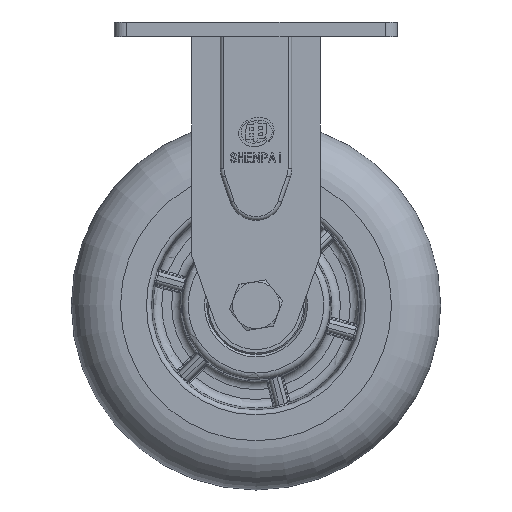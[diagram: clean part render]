
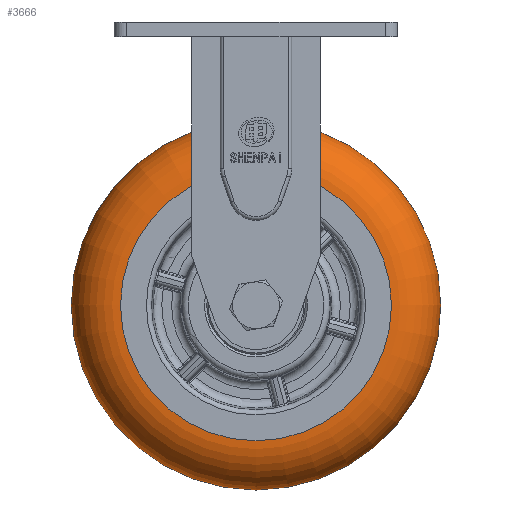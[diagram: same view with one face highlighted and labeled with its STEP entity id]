
A CAD part, front view. The second image highlights one B-rep face of the part: STEP entity #3666.
In plain terms, the highlighted toroidal (fillet/blend) face has major radius 55 mm and minor radius 20 mm.
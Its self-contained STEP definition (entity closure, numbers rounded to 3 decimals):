
#84=TOROIDAL_SURFACE('',#14901,55.,20.);
#3666=ADVANCED_FACE('',(#4441,#4442),#84,.T.);
#4441=FACE_BOUND('',#4961,.T.);
#4442=FACE_BOUND('',#4962,.T.);
#4961=EDGE_LOOP('',(#7165));
#4962=EDGE_LOOP('',(#7166));
#7165=ORIENTED_EDGE('',*,*,#12118,.F.);
#7166=ORIENTED_EDGE('',*,*,#12116,.F.);
#10426=VERTEX_POINT('',#38686);
#10428=VERTEX_POINT('',#38700);
#12116=EDGE_CURVE('',#10426,#10426,#13815,.T.);
#12118=EDGE_CURVE('',#10428,#10428,#13817,.T.);
#13815=CIRCLE('',#14886,55.);
#13817=CIRCLE('',#14898,75.);
#14886=AXIS2_PLACEMENT_3D('',#38685,#17079,#17080);
#14898=AXIS2_PLACEMENT_3D('',#38699,#17103,#17104);
#14901=AXIS2_PLACEMENT_3D('',#38704,#17109,#17110);
#17079=DIRECTION('',(0.,-1.,0.));
#17080=DIRECTION('',(0.,0.,-1.));
#17103=DIRECTION('',(0.,1.,0.));
#17104=DIRECTION('',(0.,0.,-1.));
#17109=DIRECTION('',(0.,1.,0.));
#17110=DIRECTION('',(0.,0.,1.));
#38685=CARTESIAN_POINT('',(0.024,-25.,-115.));
#38686=CARTESIAN_POINT('',(0.024,-25.,-170.));
#38699=CARTESIAN_POINT('',(0.024,-5.,-115.));
#38700=CARTESIAN_POINT('',(0.024,-5.,-190.));
#38704=CARTESIAN_POINT('',(0.024,-5.,-115.));
